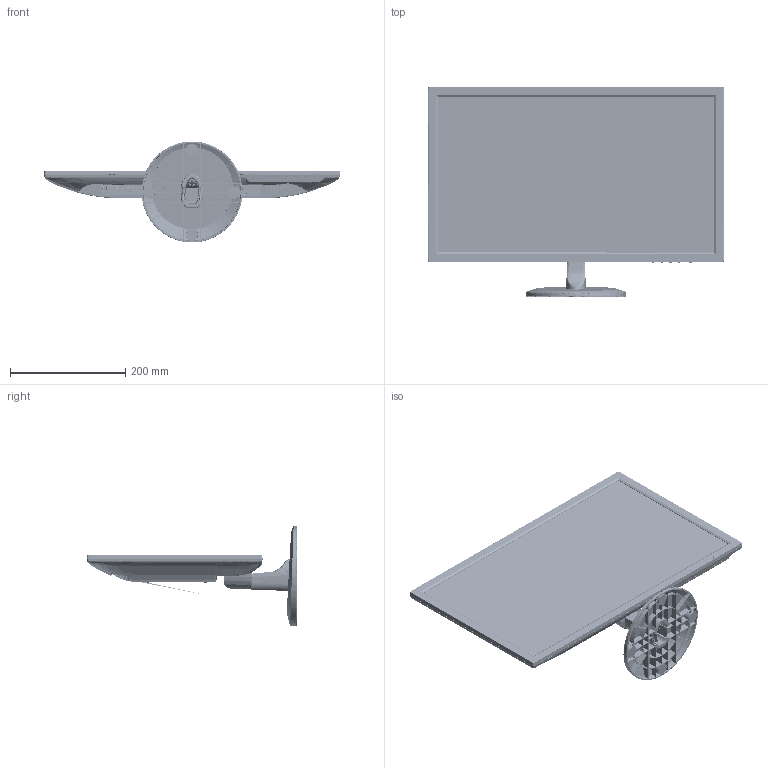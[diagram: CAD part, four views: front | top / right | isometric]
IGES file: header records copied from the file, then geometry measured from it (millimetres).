
Start section: SolidWorks IGES file using analytic representation for surfaces
Global section: file name: C:\Richard Folder\1195 Building\1195 Rich Directory\Cindy - 3D Drawings\ECO-1006722 - PXL2270MW - 997-8001-00\STP\Final\997-8001-00 RevA.IGS; native system: SolidWorks 2014; preprocessor: SolidWorks 2014; author: RDavenport; date: 150528.164051; units: millimetre
Bounding box: 513.23 x 364.69 x 174.91 mm (x, y, z)
Surface area: 953008.5 mm2 (no closed solid volume)
Topology: 0 solids, 0 shells, 9898 faces, 84139 edges, 84003 vertices
Faces by surface type: bspline 7727, revolution 2171
